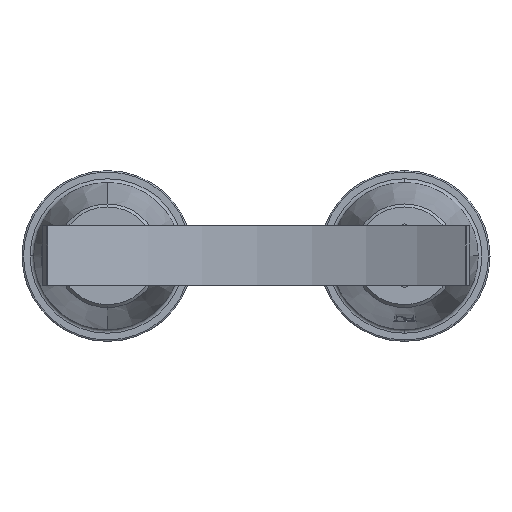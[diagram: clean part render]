
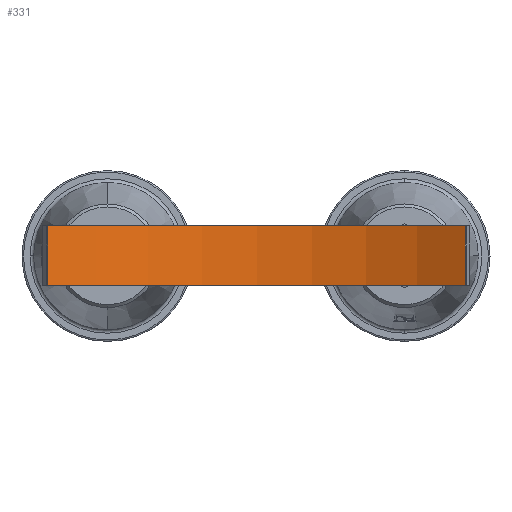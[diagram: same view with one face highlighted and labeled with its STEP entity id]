
A CAD part, top view. The second image highlights one B-rep face of the part: STEP entity #331.
In plain terms, the highlighted cylindrical face has radius 504 mm (diameter 1008 mm), a partial arc.
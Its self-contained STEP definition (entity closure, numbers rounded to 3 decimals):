
#331=ADVANCED_FACE('',(#817),#818,.F.);
#817=FACE_OUTER_BOUND('',#1538,.T.);
#818=CYLINDRICAL_SURFACE('',#1539,504.);
#1538=EDGE_LOOP('',(#2214,#2215,#2216,#2217));
#1539=AXIS2_PLACEMENT_3D('',#2218,#2219,#2220);
#2214=ORIENTED_EDGE('',*,*,#4065,.T.);
#2215=ORIENTED_EDGE('',*,*,#4055,.F.);
#2216=ORIENTED_EDGE('',*,*,#4066,.T.);
#2217=ORIENTED_EDGE('',*,*,#4062,.T.);
#2218=CARTESIAN_POINT('',(135.943,314.002,540.75));
#2219=DIRECTION('',(0.,-1.0,0.));
#2220=DIRECTION('',(1.0,0.,0.));
#4055=EDGE_CURVE('',#4783,#4778,#4785,.T.);
#4062=EDGE_CURVE('',#4795,#4793,#4796,.T.);
#4065=EDGE_CURVE('',#4793,#4778,#4799,.T.);
#4066=EDGE_CURVE('',#4783,#4795,#4800,.T.);
#4778=VERTEX_POINT('',#5834);
#4783=VERTEX_POINT('',#5841);
#4785=LINE('',#5844,#5845);
#4793=VERTEX_POINT('',#5854);
#4795=VERTEX_POINT('',#5857);
#4796=LINE('',#5858,#5859);
#4799=CIRCLE('',#5863,504.);
#4800=CIRCLE('',#5864,504.);
#5834=CARTESIAN_POINT('',(417.583,234.002,122.785));
#5841=CARTESIAN_POINT('',(417.583,314.002,122.785));
#5844=CARTESIAN_POINT('',(417.583,314.002,122.785));
#5845=VECTOR('',#9066,1.);
#5854=CARTESIAN_POINT('',(-144.197,234.002,121.778));
#5857=CARTESIAN_POINT('',(-144.197,314.002,121.778));
#5858=CARTESIAN_POINT('',(-144.197,314.002,121.778));
#5859=VECTOR('',#9075,1.);
#5863=AXIS2_PLACEMENT_3D('',#9077,#9078,#9079);
#5864=AXIS2_PLACEMENT_3D('',#9080,#9081,#9082);
#9066=DIRECTION('',(0.,-1.0,0.));
#9075=DIRECTION('',(0.,-1.0,0.));
#9077=CARTESIAN_POINT('',(135.943,234.002,540.75));
#9078=DIRECTION('',(0.,-1.0,0.));
#9079=DIRECTION('',(1.0,0.,0.));
#9080=CARTESIAN_POINT('',(135.943,314.002,540.75));
#9081=DIRECTION('',(0.,1.0,0.));
#9082=DIRECTION('',(1.0,0.,0.));
